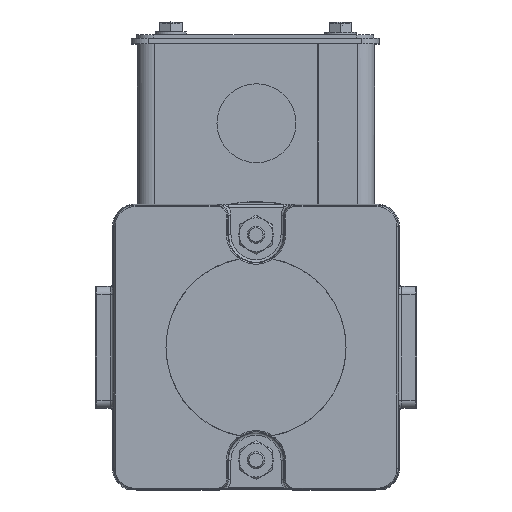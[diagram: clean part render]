
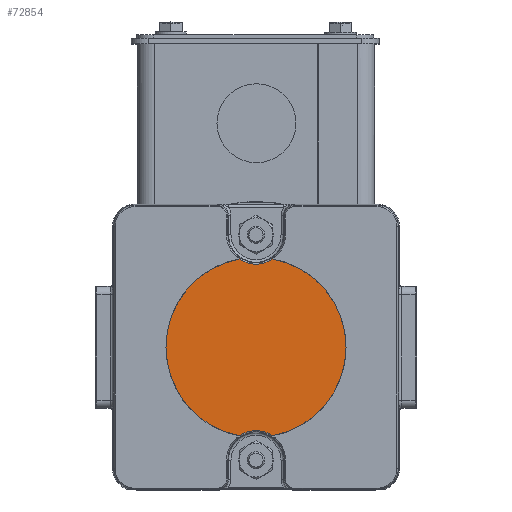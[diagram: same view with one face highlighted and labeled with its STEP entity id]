
A CAD part, top view. The second image highlights one B-rep face of the part: STEP entity #72854.
In plain terms, the highlighted planar face has unit normal (0, 0, 1).
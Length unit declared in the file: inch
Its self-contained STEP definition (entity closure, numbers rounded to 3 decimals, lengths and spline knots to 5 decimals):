
#1481 = CARTESIAN_POINT ( 'NONE',  ( 0.18608, -0.9805, 9.4515 ) ) ;
#5652 = CIRCLE ( 'NONE', #53857, 0.998 ) ;
#10726 = EDGE_CURVE ( 'NONE', #31257, #52049, #13251, .T. ) ;
#11637 = CIRCLE ( 'NONE', #58388, 0.3275 ) ;
#12069 = EDGE_CURVE ( 'NONE', #28545, #58124, #5652, .T. ) ;
#13251 = CIRCLE ( 'NONE', #51930, 0.998 ) ;
#13887 = FACE_OUTER_BOUND ( 'NONE', #21798, .T. ) ;
#15385 = DIRECTION ( 'NONE',  ( 0., 0., 1. ) ) ;
#21798 = EDGE_LOOP ( 'NONE', ( #41350, #41416, #43736, #43963, #46057 ) ) ;
#23244 = AXIS2_PLACEMENT_3D ( 'NONE', #25827, #65453, #31573 ) ;
#25324 = CARTESIAN_POINT ( 'NONE',  ( -0.998, 0., 9.4515 ) ) ;
#25827 = CARTESIAN_POINT ( 'NONE',  ( 0., 1.25, 9.4515 ) ) ;
#25878 = EDGE_CURVE ( 'NONE', #58124, #31257, #11637, .T. ) ;
#26452 = AXIS2_PLACEMENT_3D ( 'NONE', #40827, #29724, #69215 ) ;
#28545 = VERTEX_POINT ( 'NONE', #25324 ) ;
#29724 = DIRECTION ( 'NONE',  ( 0., 0., 1. ) ) ;
#31257 = VERTEX_POINT ( 'NONE', #1481 ) ;
#31573 = DIRECTION ( 'NONE',  ( 1., 0., 0. ) ) ;
#31624 = CARTESIAN_POINT ( 'NONE',  ( 0., -1.25, 9.4515 ) ) ;
#33037 = CARTESIAN_POINT ( 'NONE',  ( 0., 0., 9.4515 ) ) ;
#33132 = DIRECTION ( 'NONE',  ( 0., 0., 1. ) ) ;
#33509 = EDGE_CURVE ( 'NONE', #43055, #28545, #43562, .T. ) ;
#33775 = DIRECTION ( 'NONE',  ( 1., 0., 0. ) ) ;
#37312 = DIRECTION ( 'NONE',  ( 1., 0., 0. ) ) ;
#40827 = CARTESIAN_POINT ( 'NONE',  ( 0., 0., 9.4515 ) ) ;
#41350 = ORIENTED_EDGE ( 'NONE', *, *, #44870, .T. ) ;
#41416 = ORIENTED_EDGE ( 'NONE', *, *, #33509, .T. ) ;
#43055 = VERTEX_POINT ( 'NONE', #65046 ) ;
#43562 = CIRCLE ( 'NONE', #61093, 0.998 ) ;
#43593 = DIRECTION ( 'NONE',  ( 1., 0., 0. ) ) ;
#43675 = DIRECTION ( 'NONE',  ( 0., 0., 1. ) ) ;
#43733 = CARTESIAN_POINT ( 'NONE',  ( 0., 0., 9.4515 ) ) ;
#43736 = ORIENTED_EDGE ( 'NONE', *, *, #12069, .T. ) ;
#43963 = ORIENTED_EDGE ( 'NONE', *, *, #25878, .T. ) ;
#44870 = EDGE_CURVE ( 'NONE', #52049, #43055, #72330, .T. ) ;
#46057 = ORIENTED_EDGE ( 'NONE', *, *, #10726, .T. ) ;
#49253 = CARTESIAN_POINT ( 'NONE',  ( 0., 0., 9.4515 ) ) ;
#50480 = CARTESIAN_POINT ( 'NONE',  ( 0.18608, 0.9805, 9.4515 ) ) ;
#51930 = AXIS2_PLACEMENT_3D ( 'NONE', #33037, #33132, #33775 ) ;
#52049 = VERTEX_POINT ( 'NONE', #50480 ) ;
#53857 = AXIS2_PLACEMENT_3D ( 'NONE', #43733, #43675, #43593 ) ;
#54884 = DIRECTION ( 'NONE',  ( 1., 0., 0. ) ) ;
#56882 = CARTESIAN_POINT ( 'NONE',  ( -0.18608, -0.9805, 9.4515 ) ) ;
#58124 = VERTEX_POINT ( 'NONE', #56882 ) ;
#58388 = AXIS2_PLACEMENT_3D ( 'NONE', #31624, #71078, #37312 ) ;
#61093 = AXIS2_PLACEMENT_3D ( 'NONE', #49253, #15385, #54884 ) ;
#63576 = PLANE ( 'NONE',  #26452 ) ;
#65046 = CARTESIAN_POINT ( 'NONE',  ( -0.18608, 0.9805, 9.4515 ) ) ;
#65453 = DIRECTION ( 'NONE',  ( 0., 0., -1. ) ) ;
#69215 = DIRECTION ( 'NONE',  ( 1., 0., 0. ) ) ;
#71078 = DIRECTION ( 'NONE',  ( 0., 0., -1. ) ) ;
#72330 = CIRCLE ( 'NONE', #23244, 0.3275 ) ;
#72854 = ADVANCED_FACE ( 'NONE', ( #13887 ), #63576, .T. ) ;
